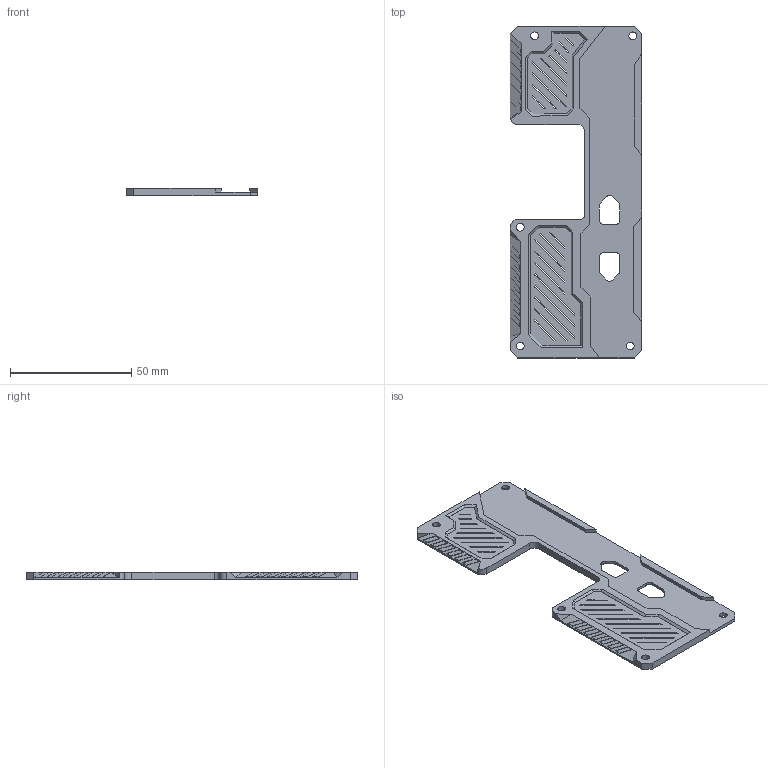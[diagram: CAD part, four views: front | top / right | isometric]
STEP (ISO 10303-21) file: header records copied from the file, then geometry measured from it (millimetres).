
FILE_DESCRIPTION((''),'2;1');
FILE_NAME('LLL_PLUS_-2','2025-04-16T16:45:44',('Mayn'),(''),'CREO PARAMETRIC BY PTC INC, 2024063','CREO PARAMETRIC BY PTC INC, 2024063','');
FILE_SCHEMA(('CONFIG_CONTROL_DESIGN'));
Length unit declared in the file: millimetre
Products named in the file (1): LLL_PLUS_-2
Bounding box: 54.2 x 137 x 3.03 mm (x, y, z)
Volume: 12028.7 mm3; surface area: 14673.2 mm2
Topology: 1 solids, 1 shells, 278 faces, 761 edges, 499 vertices
Faces by surface type: plane 229, cylinder 25, extrusion 13, cone 10, bspline 1
Entity records: 8887 total; most frequent: CARTESIAN_POINT 1684, ORIENTED_EDGE 1520, DIRECTION 1351, EDGE_CURVE 760, VECTOR 665, LINE 652, VERTEX_POINT 499, EDGE_LOOP 345
